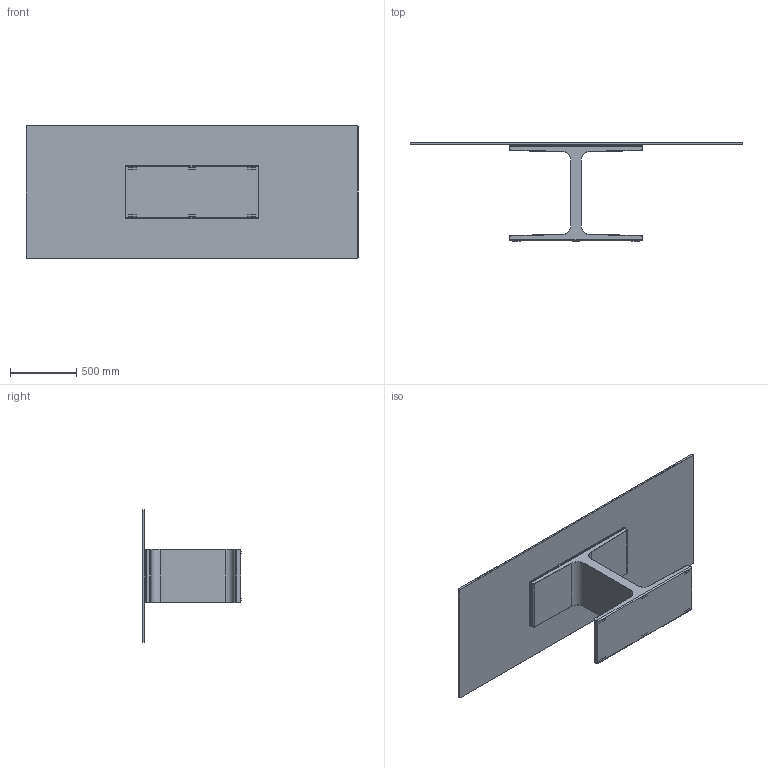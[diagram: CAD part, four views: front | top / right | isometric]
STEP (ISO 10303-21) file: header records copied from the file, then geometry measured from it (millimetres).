
FILE_DESCRIPTION((''),'2;1');
FILE_NAME('C:\AutodeskVault\AreaLavoro\Progetti\SoVeT Italia\1. Tavoli_Dining tables\Palace\Palace\Web file\Palace Web\P1566.stp','2012-04-27T17:32:38',('Gianluca'),('So.Ve.T. s.r.l.'),'Autodesk Inventor 2011','Autodesk Inventor 2011','IL PROGETTO E'' DI ESCLUSIVA PROPRIETA'' DELLA SO.VE.T. srl. E'' VIETATA OGNI RIPRODUZIONE TOTALE O PARZIALE EQUALSIASI UTILIZZO NON AUTORIZZATO.');
FILE_SCHEMA(('AUTOMOTIVE_DESIGN { 1 0 10303 214 1 1 1 1 }'));
Length unit declared in the file: millimetre
Products named in the file (1): P1566 Contorno semplificato
Bounding box: 2500 x 741 x 1000 mm (x, y, z)
Volume: 95805690.6 mm3; surface area: 7505411 mm2
Topology: 2 solids, 2 shells, 155 faces, 352 edges, 208 vertices
Faces by surface type: plane 79, cylinder 44, torus 16, cone 8, bspline 8
Entity records: 4655 total; most frequent: CARTESIAN_POINT 1004, DIRECTION 712, ORIENTED_EDGE 704, EDGE_CURVE 352, VECTOR 240, LINE 240, AXIS2_PLACEMENT_3D 236, VERTEX_POINT 208
